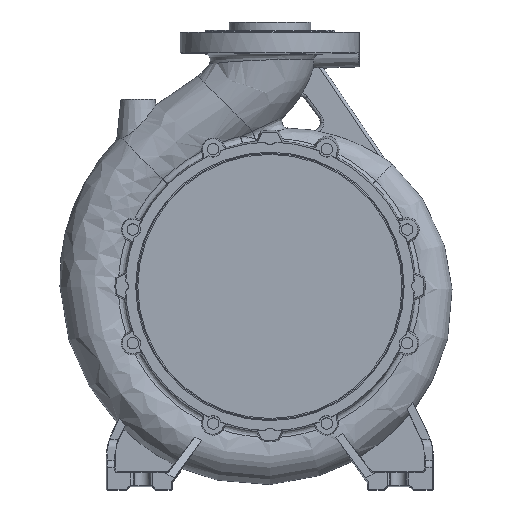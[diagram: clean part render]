
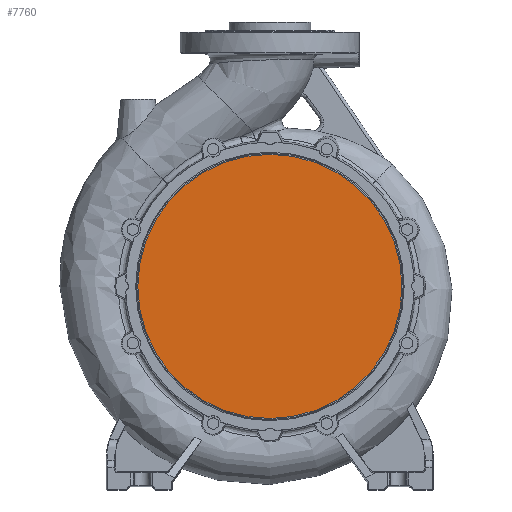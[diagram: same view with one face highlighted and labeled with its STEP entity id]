
A CAD part, top view. The second image highlights one B-rep face of the part: STEP entity #7760.
In plain terms, the highlighted planar face has unit normal (0, 0, 1).
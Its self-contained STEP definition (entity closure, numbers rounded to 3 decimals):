
#2729 = DIRECTION ( 'NONE',  ( 0., 0., 1. ) ) ;
#2935 = DIRECTION ( 'NONE',  ( 1., 0., 0. ) ) ;
#4421 = VERTEX_POINT ( 'NONE', #43439 ) ;
#4800 = FACE_OUTER_BOUND ( 'NONE', #12524, .T. ) ;
#6002 = CIRCLE ( 'NONE', #36071, 162.343 ) ;
#7760 = ADVANCED_FACE ( 'NONE', ( #4800 ), #42339, .T. ) ;
#9920 = VERTEX_POINT ( 'NONE', #14382 ) ;
#10884 = DIRECTION ( 'NONE',  ( 1., 0., 0. ) ) ;
#12524 = EDGE_LOOP ( 'NONE', ( #15607, #19599 ) ) ;
#14382 = CARTESIAN_POINT ( 'NONE',  ( -162.343, 0., 67.073 ) ) ;
#15607 = ORIENTED_EDGE ( 'NONE', *, *, #36851, .T. ) ;
#19599 = ORIENTED_EDGE ( 'NONE', *, *, #24211, .T. ) ;
#23380 = AXIS2_PLACEMENT_3D ( 'NONE', #35319, #31950, #10884 ) ;
#23776 = CARTESIAN_POINT ( 'NONE',  ( 0., 0., 67.073 ) ) ;
#23977 = DIRECTION ( 'NONE',  ( 0., 0., 1. ) ) ;
#24211 = EDGE_CURVE ( 'NONE', #9920, #4421, #41186, .T. ) ;
#27294 = DIRECTION ( 'NONE',  ( 1., 0., 0. ) ) ;
#31518 = AXIS2_PLACEMENT_3D ( 'NONE', #23776, #2729, #27294 ) ;
#31950 = DIRECTION ( 'NONE',  ( 0., 0., 1. ) ) ;
#35319 = CARTESIAN_POINT ( 'NONE',  ( 0., -162.343, 67.073 ) ) ;
#36071 = AXIS2_PLACEMENT_3D ( 'NONE', #44888, #23977, #2935 ) ;
#36851 = EDGE_CURVE ( 'NONE', #4421, #9920, #6002, .T. ) ;
#41186 = CIRCLE ( 'NONE', #31518, 162.343 ) ;
#42339 = PLANE ( 'NONE',  #23380 ) ;
#43439 = CARTESIAN_POINT ( 'NONE',  ( 162.343, 0., 67.073 ) ) ;
#44888 = CARTESIAN_POINT ( 'NONE',  ( 0., 0., 67.073 ) ) ;
